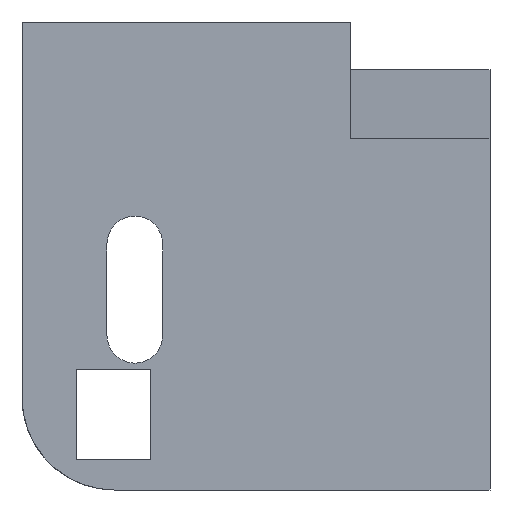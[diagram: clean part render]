
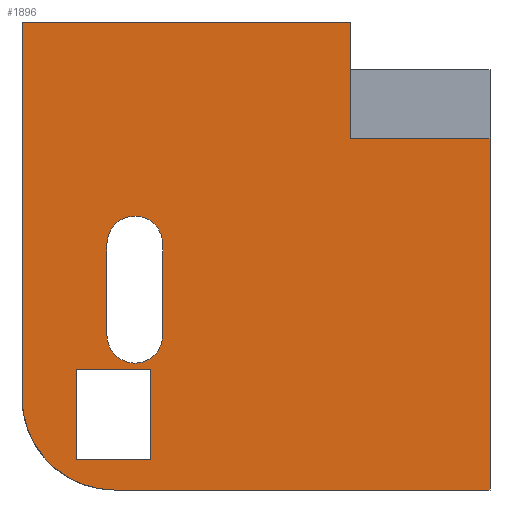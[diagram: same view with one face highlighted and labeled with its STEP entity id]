
A CAD part, front view. The second image highlights one B-rep face of the part: STEP entity #1896.
In plain terms, the highlighted planar face has unit normal (0, -1, 0).
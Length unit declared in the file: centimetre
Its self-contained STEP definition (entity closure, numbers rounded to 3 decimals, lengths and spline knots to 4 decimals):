
#10 = CARTESIAN_POINT ( 'NONE',  ( 0., 0., 1000. ) ) ;
#11 = DIRECTION ( 'NONE',  ( 1., 0., 0. ) ) ;
#14 = CARTESIAN_POINT ( 'NONE',  ( 0., 0., 1000. ) ) ;
#59 = CARTESIAN_POINT ( 'NONE',  ( 241.1009, 0., 525.6931 ) ) ;
#62 = VECTOR ( 'NONE', #11, 100. ) ;
#93 = EDGE_CURVE ( 'NONE', #1043, #632, #2108, .T. ) ;
#118 = CARTESIAN_POINT ( 'NONE',  ( 300.612, 0., 525.6931 ) ) ;
#120 = EDGE_CURVE ( 'NONE', #800, #1758, #414, .T. ) ;
#132 = VECTOR ( 'NONE', #175, 100. ) ;
#141 = CARTESIAN_POINT ( 'NONE',  ( 181.5899, 0., 330.4991 ) ) ;
#147 = EDGE_CURVE ( 'NONE', #725, #1187, #893, .T. ) ;
#165 = CARTESIAN_POINT ( 'NONE',  ( 0., 0., 1000. ) ) ;
#175 = DIRECTION ( 'NONE',  ( 1., 0., 0. ) ) ;
#187 = LINE ( 'NONE', #1019, #374 ) ;
#192 = FACE_OUTER_BOUND ( 'NONE', #1457, .T. ) ;
#214 = DIRECTION ( 'NONE',  ( 0., 0., 1. ) ) ;
#215 = CARTESIAN_POINT ( 'NONE',  ( 702.9346, 0., 1000. ) ) ;
#220 = CARTESIAN_POINT ( 'NONE',  ( 0., 0., 0. ) ) ;
#230 = AXIS2_PLACEMENT_3D ( 'NONE', #59, #537, #878 ) ;
#235 = VERTEX_POINT ( 'NONE', #1714 ) ;
#262 = EDGE_LOOP ( 'NONE', ( #526, #2117, #2008, #919, #561 ) ) ;
#273 = AXIS2_PLACEMENT_3D ( 'NONE', #14, #687, #533 ) ;
#318 = DIRECTION ( 'NONE',  ( 0., 1., 0. ) ) ;
#344 = DIRECTION ( 'NONE',  ( 0., 0., -1. ) ) ;
#374 = VECTOR ( 'NONE', #344, 100. ) ;
#390 = CARTESIAN_POINT ( 'NONE',  ( 197.8284, 0., 197.8284 ) ) ;
#392 = ORIENTED_EDGE ( 'NONE', *, *, #1777, .F. ) ;
#414 = LINE ( 'NONE', #1088, #1062 ) ;
#453 = DIRECTION ( 'NONE',  ( 0., 1., 0. ) ) ;
#461 = CARTESIAN_POINT ( 'NONE',  ( 197.8284, 0., 0. ) ) ;
#462 = DIRECTION ( 'NONE',  ( 0., 0., 1. ) ) ;
#470 = CARTESIAN_POINT ( 'NONE',  ( 702.9346, 0., 750.6333 ) ) ;
#490 = LINE ( 'NONE', #141, #622 ) ;
#495 = CARTESIAN_POINT ( 'NONE',  ( 116.3861, 0., 65.3687 ) ) ;
#503 = VERTEX_POINT ( 'NONE', #1144 ) ;
#508 = VECTOR ( 'NONE', #927, 100. ) ;
#526 = ORIENTED_EDGE ( 'NONE', *, *, #1076, .T. ) ;
#533 = DIRECTION ( 'NONE',  ( 0., 0., 1. ) ) ;
#535 = CARTESIAN_POINT ( 'NONE',  ( 116.3861, 0., 257.6507 ) ) ;
#537 = DIRECTION ( 'NONE',  ( 0., 1., 0. ) ) ;
#561 = ORIENTED_EDGE ( 'NONE', *, *, #2071, .T. ) ;
#581 = ORIENTED_EDGE ( 'NONE', *, *, #1080, .F. ) ;
#588 = VECTOR ( 'NONE', #1500, 100. ) ;
#606 = CARTESIAN_POINT ( 'NONE',  ( 1000., 0., 1000. ) ) ;
#622 = VECTOR ( 'NONE', #1471, 100. ) ;
#625 = CARTESIAN_POINT ( 'NONE',  ( 300.612, 0., 525.6931 ) ) ;
#632 = VERTEX_POINT ( 'NONE', #1624 ) ;
#687 = DIRECTION ( 'NONE',  ( 0., 1., 0. ) ) ;
#691 = AXIS2_PLACEMENT_3D ( 'NONE', #1450, #453, #462 ) ;
#696 = LINE ( 'NONE', #10, #1280 ) ;
#698 = FACE_BOUND ( 'NONE', #262, .T. ) ;
#725 = VERTEX_POINT ( 'NONE', #1185 ) ;
#764 = EDGE_CURVE ( 'NONE', #503, #1043, #1803, .T. ) ;
#765 = CIRCLE ( 'NONE', #1874, 59.5111 ) ;
#769 = CARTESIAN_POINT ( 'NONE',  ( 1000., 0., 750.6333 ) ) ;
#798 = CARTESIAN_POINT ( 'NONE',  ( 300.612, 0., 330.4991 ) ) ;
#799 = CARTESIAN_POINT ( 'NONE',  ( 241.1009, 0., 330.4991 ) ) ;
#800 = VERTEX_POINT ( 'NONE', #1418 ) ;
#822 = EDGE_LOOP ( 'NONE', ( #1926, #1589, #1724, #1024 ) ) ;
#878 = DIRECTION ( 'NONE',  ( 0., 0., 1. ) ) ;
#883 = FACE_BOUND ( 'NONE', #822, .T. ) ;
#893 = CIRCLE ( 'NONE', #230, 59.5111 ) ;
#919 = ORIENTED_EDGE ( 'NONE', *, *, #147, .T. ) ;
#927 = DIRECTION ( 'NONE',  ( 1., 0., 0. ) ) ;
#929 = ORIENTED_EDGE ( 'NONE', *, *, #93, .T. ) ;
#981 = LINE ( 'NONE', #165, #132 ) ;
#989 = DIRECTION ( 'NONE',  ( 0., 0., -1. ) ) ;
#996 = EDGE_CURVE ( 'NONE', #1915, #725, #490, .T. ) ;
#1018 = ORIENTED_EDGE ( 'NONE', *, *, #2144, .F. ) ;
#1019 = CARTESIAN_POINT ( 'NONE',  ( 116.3861, 0., 65.3687 ) ) ;
#1024 = ORIENTED_EDGE ( 'NONE', *, *, #120, .F. ) ;
#1042 = CARTESIAN_POINT ( 'NONE',  ( 181.5899, 0., 330.4991 ) ) ;
#1043 = VERTEX_POINT ( 'NONE', #461 ) ;
#1062 = VECTOR ( 'NONE', #2062, 100. ) ;
#1076 = EDGE_CURVE ( 'NONE', #2040, #1098, #1310, .T. ) ;
#1080 = EDGE_CURVE ( 'NONE', #1922, #1561, #1975, .T. ) ;
#1088 = CARTESIAN_POINT ( 'NONE',  ( 274.8144, 0., 65.3687 ) ) ;
#1098 = VERTEX_POINT ( 'NONE', #798 ) ;
#1122 = DIRECTION ( 'NONE',  ( 0., 0., -1. ) ) ;
#1144 = CARTESIAN_POINT ( 'NONE',  ( 0., 0., 197.8284 ) ) ;
#1173 = VECTOR ( 'NONE', #1348, 100. ) ;
#1185 = CARTESIAN_POINT ( 'NONE',  ( 181.5899, 0., 525.6931 ) ) ;
#1187 = VERTEX_POINT ( 'NONE', #1697 ) ;
#1192 = LINE ( 'NONE', #1698, #62 ) ;
#1205 = DIRECTION ( 'NONE',  ( 0., -1., 0. ) ) ;
#1209 = EDGE_CURVE ( 'NONE', #1296, #503, #696, .T. ) ;
#1221 = ORIENTED_EDGE ( 'NONE', *, *, #764, .T. ) ;
#1235 = ORIENTED_EDGE ( 'NONE', *, *, #2026, .F. ) ;
#1267 = DIRECTION ( 'NONE',  ( 0., 0., 1. ) ) ;
#1280 = VECTOR ( 'NONE', #1361, 100. ) ;
#1286 = CARTESIAN_POINT ( 'NONE',  ( 702.9346, 0., 750.6333 ) ) ;
#1296 = VERTEX_POINT ( 'NONE', #1404 ) ;
#1310 = LINE ( 'NONE', #625, #1627 ) ;
#1348 = DIRECTION ( 'NONE',  ( -1., 0., 0. ) ) ;
#1361 = DIRECTION ( 'NONE',  ( 0., 0., -1. ) ) ;
#1380 = VECTOR ( 'NONE', #989, 100. ) ;
#1397 = VERTEX_POINT ( 'NONE', #769 ) ;
#1404 = CARTESIAN_POINT ( 'NONE',  ( 0., 0., 1000. ) ) ;
#1418 = CARTESIAN_POINT ( 'NONE',  ( 274.8144, 0., 65.3687 ) ) ;
#1450 = CARTESIAN_POINT ( 'NONE',  ( 241.1009, 0., 525.6931 ) ) ;
#1457 = EDGE_LOOP ( 'NONE', ( #1235, #1018, #581, #392, #2161, #1221, #929 ) ) ;
#1471 = DIRECTION ( 'NONE',  ( 0., 0., 1. ) ) ;
#1480 = LINE ( 'NONE', #606, #1489 ) ;
#1489 = VECTOR ( 'NONE', #1797, 100. ) ;
#1500 = DIRECTION ( 'NONE',  ( 1., 0., 0. ) ) ;
#1515 = AXIS2_PLACEMENT_3D ( 'NONE', #390, #1205, #214 ) ;
#1521 = PLANE ( 'NONE',  #273 ) ;
#1561 = VERTEX_POINT ( 'NONE', #1286 ) ;
#1589 = ORIENTED_EDGE ( 'NONE', *, *, #1610, .F. ) ;
#1598 = EDGE_CURVE ( 'NONE', #1758, #1895, #1994, .T. ) ;
#1610 = EDGE_CURVE ( 'NONE', #1895, #235, #187, .T. ) ;
#1624 = CARTESIAN_POINT ( 'NONE',  ( 1000., 0., 0. ) ) ;
#1627 = VECTOR ( 'NONE', #1122, 100. ) ;
#1665 = LINE ( 'NONE', #495, #588 ) ;
#1697 = CARTESIAN_POINT ( 'NONE',  ( 241.1009, 0., 585.2041 ) ) ;
#1698 = CARTESIAN_POINT ( 'NONE',  ( 702.9346, 0., 750.6333 ) ) ;
#1714 = CARTESIAN_POINT ( 'NONE',  ( 116.3861, 0., 65.3687 ) ) ;
#1724 = ORIENTED_EDGE ( 'NONE', *, *, #1598, .F. ) ;
#1758 = VERTEX_POINT ( 'NONE', #2140 ) ;
#1762 = EDGE_CURVE ( 'NONE', #235, #800, #1665, .T. ) ;
#1777 = EDGE_CURVE ( 'NONE', #1296, #1922, #981, .T. ) ;
#1797 = DIRECTION ( 'NONE',  ( 0., 0., -1. ) ) ;
#1803 = CIRCLE ( 'NONE', #1515, 197.8284 ) ;
#1874 = AXIS2_PLACEMENT_3D ( 'NONE', #799, #318, #1267 ) ;
#1895 = VERTEX_POINT ( 'NONE', #2068 ) ;
#1896 = ADVANCED_FACE ( 'NONE', ( #698, #883, #192 ), #1521, .F. ) ;
#1915 = VERTEX_POINT ( 'NONE', #1042 ) ;
#1922 = VERTEX_POINT ( 'NONE', #215 ) ;
#1926 = ORIENTED_EDGE ( 'NONE', *, *, #1762, .F. ) ;
#1975 = LINE ( 'NONE', #470, #1380 ) ;
#1994 = LINE ( 'NONE', #535, #1173 ) ;
#2008 = ORIENTED_EDGE ( 'NONE', *, *, #996, .T. ) ;
#2026 = EDGE_CURVE ( 'NONE', #1397, #632, #1480, .T. ) ;
#2040 = VERTEX_POINT ( 'NONE', #118 ) ;
#2062 = DIRECTION ( 'NONE',  ( 0., 0., 1. ) ) ;
#2068 = CARTESIAN_POINT ( 'NONE',  ( 116.3861, 0., 257.6507 ) ) ;
#2071 = EDGE_CURVE ( 'NONE', #1187, #2040, #2093, .T. ) ;
#2086 = EDGE_CURVE ( 'NONE', #1098, #1915, #765, .T. ) ;
#2093 = CIRCLE ( 'NONE', #691, 59.5111 ) ;
#2108 = LINE ( 'NONE', #220, #508 ) ;
#2117 = ORIENTED_EDGE ( 'NONE', *, *, #2086, .T. ) ;
#2140 = CARTESIAN_POINT ( 'NONE',  ( 274.8144, 0., 257.6507 ) ) ;
#2144 = EDGE_CURVE ( 'NONE', #1561, #1397, #1192, .T. ) ;
#2161 = ORIENTED_EDGE ( 'NONE', *, *, #1209, .T. ) ;
